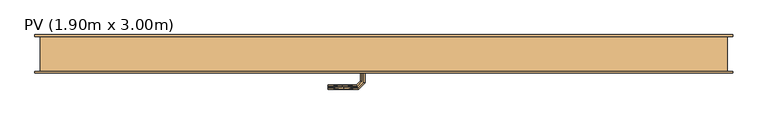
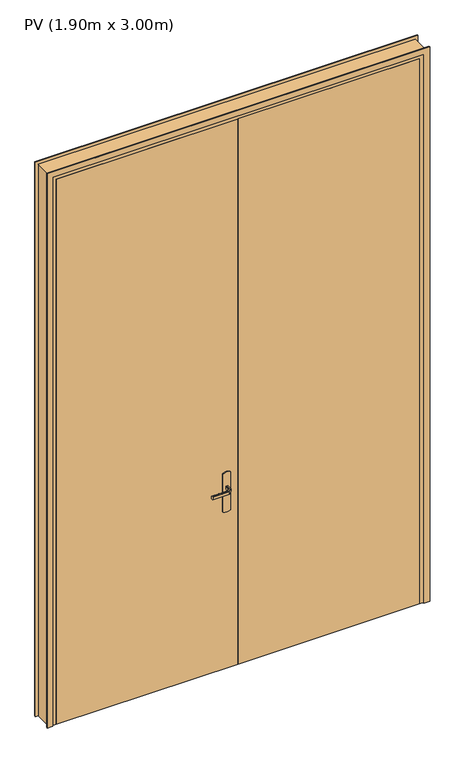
"""IFC4 building model written with IfcOpenShell, lengths in millimetres: door geometry, PV (1.90m x 3.00m)."""

from ifc_helpers import new_model, si_unit, frame, origin, origin_with_axes, place, context, project, spatial, polyline, outline, extrude, faceted_brep, source, transform, mapped, element, save


def pv_1_90m_x_3_00m_b946c323(model_context):
    return source(origin(), model_context, "Body", "SolidModel", [
        faceted_brep([(992.9747013, 45.0, 992.2195592), (997.0252987, 45.0, 992.2195592), (1001.0, 45.0, 993.0), (1001.0, 45.0, 1007.0), (997.0252987, 45.0, 1007.7804408), (992.9747013, 45.0, 1007.7804408), (989.0, 45.0, 1007.0), (989.0, 45.0, 993.0), (989.0, 67.4852045, 1007.0), (989.0, 67.4852045, 993.0), (992.9747013, 69.1315797, 1007.7804408), (997.0252987, 70.8093921, 1007.7804408), (980.8389062, 86.9957845, 1007.7804408), (979.1610938, 82.9451872, 1007.7804408), (1001.0, 72.4557673, 1007.0), (1001.0, 72.4557673, 993.0), (997.0252987, 70.8093921, 992.2195592), (992.9747013, 69.1315797, 992.2195592), (979.1610938, 82.9451872, 992.2195592), (980.8389062, 86.9957845, 992.2195592), (977.5147186, 78.9704859, 1007.0), (977.5147186, 78.9704859, 993.0), (982.4852814, 90.9704859, 1007.0), (982.4852814, 90.9704859, 993.0), (894.9542163, 82.9451872, 1007.7804408), (894.9542163, 86.9957845, 1007.7804408), (894.9542163, 90.9704859, 1007.0), (894.9542163, 90.9704859, 993.0), (894.9542163, 86.9957845, 992.2195592), (894.9542163, 82.9451872, 992.2195592), (894.9542163, 78.9704859, 993.0), (894.9542163, 78.9704859, 1007.0), (936.2344675, 78.9704859, 1007.0), (936.2344794, 78.9704859, 993.0), (937.0576551, 84.9704859, 1007.8786868), (942.5547942, 90.9704859, 1007.0), (942.5547957, 90.9704859, 993.0), (937.0576549, 84.9704858, 992.1213132)], [[[0, 1, 2, 3, 4, 5, 6, 7]], [[8, 9, 7, 6]], [[5, 10, 8, 6]], [[5, 4, 11, 12, 13, 10]], [[3, 14, 11, 4]], [[14, 3, 2, 15]], [[2, 1, 16, 15]], [[1, 0, 17, 18, 19, 16]], [[0, 7, 9, 17]], [[20, 21, 9, 8]], [[8, 10, 13, 20]], [[14, 22, 12, 11]], [[23, 22, 14, 15]], [[15, 16, 19, 23]], [[17, 9, 21, 18]], [[24, 25, 26, 27, 28, 29, 30, 31]], [[21, 20, 32, 31, 30, 33]], [[34, 24, 32]], [[25, 34, 35]], [[13, 32, 20]], [[24, 31, 32]], [[25, 35, 26]], [[35, 12, 22]], [[34, 12, 35]], [[34, 13, 12]], [[34, 32, 13]], [[24, 34, 25]], [[22, 23, 36, 27, 26, 35]], [[37, 28, 36]], [[36, 28, 27]], [[36, 23, 19]], [[18, 33, 37]], [[33, 18, 21]], [[30, 29, 33]], [[37, 29, 28]], [[37, 33, 29]], [[37, 36, 19]], [[18, 37, 19]]]),
        extrude(outline(polyline([(1055.0, 40.0), (2005.0, 40.0), (2005.0, 0.0), (1055.0, 0.0), (1055.0, 40.0)])), origin_with_axes(), (0.0, 0.0, 1.0), 3010.0),
        faceted_brep([(2040.0, 0.0, 0.0), (2005.0, 0.0, 0.0), (2005.0, 40.0, 0.0), (1990.0, 40.0, 0.0), (1990.0, 100.0, 0.0), (2040.0, 100.0, 0.0), (2040.0, 100.0, 3045.0), (2040.0, 0.0, 3045.0), (1990.0, 100.0, 2995.0), (120.0, 100.0, 2995.0), (120.0, 100.0, 0.0), (70.0, 100.0, 0.0), (70.0, 100.0, 3045.0), (1990.0, 40.0, 2995.0), (2005.0, 40.0, 3010.0), (105.0, 40.0, 3010.0), (105.0, 40.0, 0.0), (120.0, 40.0, 0.0), (120.0, 40.0, 2995.0), (2005.0, 0.0, 3010.0), (70.0, 0.0, 3045.0), (70.0, 0.0, 0.0), (105.0, 0.0, 0.0), (105.0, 0.0, 3010.0)], [[[0, 1, 2, 3, 4, 5]], [[5, 6, 7, 0]], [[4, 8, 9, 10, 11, 12, 6, 5]], [[3, 13, 8, 4]], [[2, 14, 15, 16, 17, 18, 13, 3]], [[1, 19, 14, 2]], [[0, 7, 20, 21, 22, 23, 19, 1]], [[12, 11, 21, 20]], [[21, 11, 10, 17, 16, 22]], [[18, 17, 10, 9]], [[23, 22, 16, 15]], [[6, 12, 20, 7]], [[13, 18, 9, 8]], [[19, 23, 15, 14]]]),
        extrude(outline(polyline([(870.0, 1015.0), (1080.0, 1015.0), (1083.9960169, 1005.3527618), (1085.3589838, 995.0), (1083.9960169, 984.6472382), (1080.0, 975.0), (870.0, 975.0), (866.0039831, 984.6472382), (864.6410162, 995.0), (866.0039831, 1005.3527618), (870.0, 1015.0)])), frame((0.0, 40.0, 0.0), z_axis=(0.0, 1.0, 0.0), x_axis=(0.0, 0.0, 1.0)), (0.0, 0.0, 1.0), 5.0),
        extrude(outline(polyline([(0.0, 2055.0), (3060.0, 2055.0), (3060.0, 55.0), (0.0, 55.0), (0.0, 85.0), (3030.0, 85.0), (3030.0, 2025.0), (0.0, 2025.0), (0.0, 2055.0)])), frame((0.0, 100.0, 0.0), z_axis=(0.0, 1.0, 0.0), x_axis=(0.0, 0.0, 1.0)), (0.0, 0.0, 1.0), 5.0),
        extrude(outline(polyline([(0.0, 2055.0), (3060.0, 2055.0), (3060.0, 55.0), (0.0, 55.0), (0.0, 85.0), (3030.0, 85.0), (3030.0, 2025.0), (0.0, 2025.0), (0.0, 2055.0)])), frame((0.0, -5.0, 0.0), z_axis=(0.0, 1.0, 0.0), x_axis=(0.0, 0.0, 1.0)), (0.0, 0.0, 1.0), 5.0),
        faceted_brep([(992.9747013, -5.0, 1007.7804408), (997.0252987, -5.0, 1007.7804408), (1001.0, -5.0, 1007.0), (1001.0, -5.0, 993.0), (997.0252987, -5.0, 992.2195592), (992.9747013, -5.0, 992.2195592), (989.0, -5.0, 993.0), (989.0, -5.0, 1007.0), (997.0252987, -31.0045755, 1007.7804408), (1001.0, -32.6509507, 1007.0), (992.9747013, -29.3267632, 1007.7804408), (979.2986025, -43.002862, 1007.7804408), (980.9764148, -47.0534593, 1007.7804408), (989.0, -27.680388, 1007.0), (989.0, -27.680388, 993.0), (992.9747013, -29.3267632, 992.2195592), (997.0252987, -31.0045755, 992.2195592), (980.9764148, -47.0534593, 992.2195592), (979.2986025, -43.002862, 992.2195592), (1001.0, -32.6509507, 993.0), (982.62279, -51.0281607, 1007.0), (977.6522273, -39.0281607, 1007.0), (977.6522273, -39.0281607, 993.0), (982.62279, -51.0281607, 993.0), (894.9813594, -51.0281607, 1007.0), (894.9813594, -47.0534593, 1007.7804408), (894.9813594, -43.002862, 1007.7804408), (894.9813594, -39.0281607, 1007.0), (894.9813594, -39.0281607, 993.0), (894.9813594, -43.002862, 992.2195592), (894.9813594, -47.0534593, 992.2195592), (894.9813594, -51.0281607, 993.0), (937.1399809, -45.0281607, 1007.8786868), (942.6923028, -51.0281607, 1007.0), (936.3167933, -39.0281607, 1007.0), (936.3167933, -39.0281607, 993.0), (937.1399811, -45.0281608, 992.1213132), (942.6923104, -51.0281607, 993.0)], [[[0, 1, 2, 3, 4, 5, 6, 7]], [[2, 1, 8, 9]], [[1, 0, 10, 11, 12, 8]], [[0, 7, 13, 10]], [[14, 13, 7, 6]], [[5, 15, 14, 6]], [[5, 4, 16, 17, 18, 15]], [[3, 19, 16, 4]], [[9, 19, 3, 2]], [[9, 8, 12, 20]], [[10, 13, 21, 11]], [[22, 21, 13, 14]], [[14, 15, 18, 22]], [[16, 19, 23, 17]], [[20, 23, 19, 9]], [[24, 25, 26, 27, 28, 29, 30, 31]], [[32, 25, 33]], [[33, 25, 24]], [[33, 20, 12]], [[11, 34, 32]], [[34, 11, 21]], [[27, 26, 34]], [[32, 26, 25]], [[32, 34, 26]], [[32, 33, 12]], [[11, 32, 12]], [[21, 22, 35, 28, 27, 34]], [[36, 29, 35]], [[30, 36, 37]], [[18, 35, 22]], [[29, 28, 35]], [[30, 37, 31]], [[37, 17, 23]], [[36, 17, 37]], [[36, 18, 17]], [[36, 35, 18]], [[29, 36, 30]], [[23, 20, 33, 24, 31, 37]]]),
        extrude(outline(polyline([(870.0, 1015.0), (1080.0, 1015.0), (1083.9960169, 1005.3527618), (1085.3589838, 995.0), (1083.9960169, 984.6472382), (1080.0, 975.0), (870.0, 975.0), (866.0039831, 984.6472382), (864.6410162, 995.0), (866.0039831, 1005.3527618), (870.0, 1015.0)])), frame((0.0, -5.0, 0.0), z_axis=(0.0, 1.0, 0.0), x_axis=(0.0, 0.0, 1.0)), (0.0, 0.0, 1.0), 5.0),
        extrude(outline(polyline([(1055.0, 40.0), (1055.0, 0.0), (105.0, 0.0), (105.0, 40.0), (1055.0, 40.0)])), origin_with_axes(), (0.0, 0.0, 1.0), 3010.0),
    ])


if __name__ == "__main__":
    model = new_model("IFC4")
    model_context = context("Model", 3, world=origin())
    ifc_project = project(units=[si_unit("LENGTHUNIT", "METRE", prefix="MILLI")], contexts=[model_context])
    site = spatial("IfcSite", under=ifc_project)
    building = spatial("IfcBuilding", under=site)
    placement = place(None, origin())
    pv_1_90m_x_3_00m_shape = pv_1_90m_x_3_00m_b946c323(model_context)
    element("IfcDoor", 1, ObjectType="PV (1.90m x 3.00m)", at=placement, inside=building, context=model_context, shape_type="MappedRepresentation", body=[
        mapped(pv_1_90m_x_3_00m_shape, transform((0.0, 0.0, 0.0), x_axis=(1.0, 0.0, 0.0), y_axis=(0.0, 1.0, 0.0), z_axis=(0.0, 0.0, 1.0))),
    ])
    save(model, "model.ifc")
